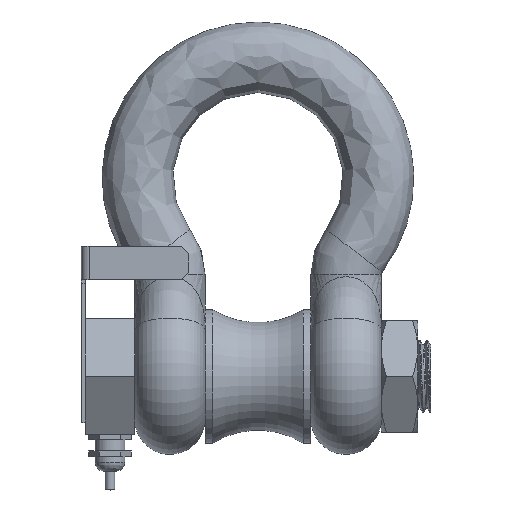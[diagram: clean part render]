
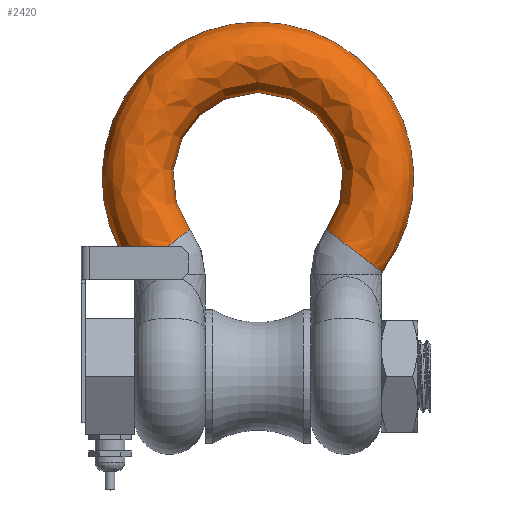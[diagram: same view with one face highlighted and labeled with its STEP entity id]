
A CAD part, top view. The second image highlights one B-rep face of the part: STEP entity #2420.
In plain terms, the highlighted free-form (B-spline) face has degree [2, 2] with [9, 7] control points.
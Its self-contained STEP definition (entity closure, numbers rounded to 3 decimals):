
#112=ELLIPSE('',#2645,19.,18.);
#113=ELLIPSE('',#2647,19.,18.);
#117=(
BOUNDED_SURFACE()
B_SPLINE_SURFACE(2,2,((#4490,#4491,#4492,#4493,#4494,#4495,#4496),(#4497,
#4498,#4499,#4500,#4501,#4502,#4503),(#4504,#4505,#4506,#4507,#4508,#4509,
#4510),(#4511,#4512,#4513,#4514,#4515,#4516,#4517),(#4518,#4519,#4520,#4521,
#4522,#4523,#4524),(#4525,#4526,#4527,#4528,#4529,#4530,#4531),(#4532,#4533,
#4534,#4535,#4536,#4537,#4538),(#4539,#4540,#4541,#4542,#4543,#4544,#4545),
(#4546,#4547,#4548,#4549,#4550,#4551,#4552)),.UNSPECIFIED.,.T.,.F.,.F.)
B_SPLINE_SURFACE_WITH_KNOTS((3,2,2,2,3),(3,2,2,3),(-3.142,-1.571,
0.,1.571,3.142),(0.,1.48,2.96,
4.44),.UNSPECIFIED.)
GEOMETRIC_REPRESENTATION_ITEM()
RATIONAL_B_SPLINE_SURFACE(((1.,0.738,1.,0.738,1.,
0.738,1.),(0.707,0.522,0.707,
0.522,0.707,0.522,0.707),
(1.,0.738,1.,0.738,1.,0.738,1.),(0.707,
0.522,0.707,0.522,0.707,0.522,
0.707),(1.,0.738,1.,0.738,1.,0.738,
1.),(0.707,0.522,0.707,0.522,
0.707,0.522,0.707),(1.,0.738,
1.,0.738,1.,0.738,1.),(0.707,0.522,
0.707,0.522,0.707,0.522,0.707),
(1.,0.738,1.,0.738,1.,0.738,1.)))
REPRESENTATION_ITEM('')
SURFACE()
);
#624=FACE_OUTER_BOUND('',#780,.T.);
#780=EDGE_LOOP('',(#1718,#1719,#1720,#1721));
#1016=CIRCLE('',#2648,84.);
#1096=VERTEX_POINT('',#4487);
#1097=VERTEX_POINT('',#4553);
#1334=EDGE_CURVE('',#1096,#1096,#112,.T.);
#1336=EDGE_CURVE('',#1097,#1097,#113,.T.);
#1337=EDGE_CURVE('',#1097,#1096,#1016,.T.);
#1718=ORIENTED_EDGE('',*,*,#1336,.T.);
#1719=ORIENTED_EDGE('',*,*,#1337,.T.);
#1720=ORIENTED_EDGE('',*,*,#1334,.F.);
#1721=ORIENTED_EDGE('',*,*,#1337,.F.);
#2420=ADVANCED_FACE('',(#624),#117,.T.);
#2645=AXIS2_PLACEMENT_3D('',#4488,#2905,#2906);
#2647=AXIS2_PLACEMENT_3D('',#4554,#2909,#2910);
#2648=AXIS2_PLACEMENT_3D('',#4555,#2911,#2912);
#2905=DIRECTION('center_axis',(0.605,-0.797,0.));
#2906=DIRECTION('ref_axis',(0.797,0.605,0.));
#2909=DIRECTION('center_axis',(0.605,0.797,0.));
#2910=DIRECTION('ref_axis',(-0.797,0.605,0.));
#2911=DIRECTION('center_axis',(0.,0.,
1.));
#2912=DIRECTION('ref_axis',(0.797,-0.605,0.));
#4487=CARTESIAN_POINT('',(-66.907,56.212,0.));
#4488=CARTESIAN_POINT('Origin',(-51.773,67.699,0.));
#4490=CARTESIAN_POINT('Ctrl Pts',(66.907,56.212,0.));
#4491=CARTESIAN_POINT('Ctrl Pts',(113.284,117.307,0.));
#4492=CARTESIAN_POINT('Ctrl Pts',(56.642,169.03,0.));
#4493=CARTESIAN_POINT('Ctrl Pts',(0.,220.752,
0.));
#4494=CARTESIAN_POINT('Ctrl Pts',(-56.642,169.03,0.));
#4495=CARTESIAN_POINT('Ctrl Pts',(-113.284,117.307,0.));
#4496=CARTESIAN_POINT('Ctrl Pts',(-66.907,56.212,0.));
#4497=CARTESIAN_POINT('Ctrl Pts',(66.907,56.212,-18.));
#4498=CARTESIAN_POINT('Ctrl Pts',(113.284,117.307,-18.));
#4499=CARTESIAN_POINT('Ctrl Pts',(56.642,169.03,-18.));
#4500=CARTESIAN_POINT('Ctrl Pts',(0.,220.752,
-18.));
#4501=CARTESIAN_POINT('Ctrl Pts',(-56.642,169.03,-18.));
#4502=CARTESIAN_POINT('Ctrl Pts',(-113.284,117.307,-18.));
#4503=CARTESIAN_POINT('Ctrl Pts',(-66.907,56.212,-18.));
#4504=CARTESIAN_POINT('Ctrl Pts',(51.773,67.699,-18.));
#4505=CARTESIAN_POINT('Ctrl Pts',(87.66,114.976,-18.));
#4506=CARTESIAN_POINT('Ctrl Pts',(43.83,154.999,-18.));
#4507=CARTESIAN_POINT('Ctrl Pts',(0.,195.022,
-18.));
#4508=CARTESIAN_POINT('Ctrl Pts',(-43.83,154.999,-18.));
#4509=CARTESIAN_POINT('Ctrl Pts',(-87.66,114.976,-18.));
#4510=CARTESIAN_POINT('Ctrl Pts',(-51.773,67.699,-18.));
#4511=CARTESIAN_POINT('Ctrl Pts',(36.64,79.187,-18.));
#4512=CARTESIAN_POINT('Ctrl Pts',(62.037,112.645,-18.));
#4513=CARTESIAN_POINT('Ctrl Pts',(31.018,140.969,-18.));
#4514=CARTESIAN_POINT('Ctrl Pts',(0.,169.293,
-18.));
#4515=CARTESIAN_POINT('Ctrl Pts',(-31.018,140.969,-18.));
#4516=CARTESIAN_POINT('Ctrl Pts',(-62.037,112.645,-18.));
#4517=CARTESIAN_POINT('Ctrl Pts',(-36.64,79.187,-18.));
#4518=CARTESIAN_POINT('Ctrl Pts',(36.64,79.187,0.));
#4519=CARTESIAN_POINT('Ctrl Pts',(62.037,112.645,0.));
#4520=CARTESIAN_POINT('Ctrl Pts',(31.018,140.969,0.));
#4521=CARTESIAN_POINT('Ctrl Pts',(0.,169.293,
0.));
#4522=CARTESIAN_POINT('Ctrl Pts',(-31.018,140.969,0.));
#4523=CARTESIAN_POINT('Ctrl Pts',(-62.037,112.645,0.));
#4524=CARTESIAN_POINT('Ctrl Pts',(-36.64,79.187,0.));
#4525=CARTESIAN_POINT('Ctrl Pts',(36.64,79.187,18.));
#4526=CARTESIAN_POINT('Ctrl Pts',(62.037,112.645,18.));
#4527=CARTESIAN_POINT('Ctrl Pts',(31.018,140.969,18.));
#4528=CARTESIAN_POINT('Ctrl Pts',(0.,169.293,
18.));
#4529=CARTESIAN_POINT('Ctrl Pts',(-31.018,140.969,18.));
#4530=CARTESIAN_POINT('Ctrl Pts',(-62.037,112.645,18.));
#4531=CARTESIAN_POINT('Ctrl Pts',(-36.64,79.187,18.));
#4532=CARTESIAN_POINT('Ctrl Pts',(51.773,67.699,18.));
#4533=CARTESIAN_POINT('Ctrl Pts',(87.66,114.976,18.));
#4534=CARTESIAN_POINT('Ctrl Pts',(43.83,154.999,18.));
#4535=CARTESIAN_POINT('Ctrl Pts',(0.,195.022,
18.));
#4536=CARTESIAN_POINT('Ctrl Pts',(-43.83,154.999,18.));
#4537=CARTESIAN_POINT('Ctrl Pts',(-87.66,114.976,18.));
#4538=CARTESIAN_POINT('Ctrl Pts',(-51.773,67.699,18.));
#4539=CARTESIAN_POINT('Ctrl Pts',(66.907,56.212,18.));
#4540=CARTESIAN_POINT('Ctrl Pts',(113.284,117.307,18.));
#4541=CARTESIAN_POINT('Ctrl Pts',(56.642,169.03,18.));
#4542=CARTESIAN_POINT('Ctrl Pts',(0.,220.752,
18.));
#4543=CARTESIAN_POINT('Ctrl Pts',(-56.642,169.03,18.));
#4544=CARTESIAN_POINT('Ctrl Pts',(-113.284,117.307,18.));
#4545=CARTESIAN_POINT('Ctrl Pts',(-66.907,56.212,18.));
#4546=CARTESIAN_POINT('Ctrl Pts',(66.907,56.212,0.));
#4547=CARTESIAN_POINT('Ctrl Pts',(113.284,117.307,0.));
#4548=CARTESIAN_POINT('Ctrl Pts',(56.642,169.03,0.));
#4549=CARTESIAN_POINT('Ctrl Pts',(0.,220.752,
0.));
#4550=CARTESIAN_POINT('Ctrl Pts',(-56.642,169.03,0.));
#4551=CARTESIAN_POINT('Ctrl Pts',(-113.284,117.307,0.));
#4552=CARTESIAN_POINT('Ctrl Pts',(-66.907,56.212,0.));
#4553=CARTESIAN_POINT('',(66.907,56.212,0.));
#4554=CARTESIAN_POINT('Origin',(51.773,67.699,0.));
#4555=CARTESIAN_POINT('Origin',(0.,107.,0.));
